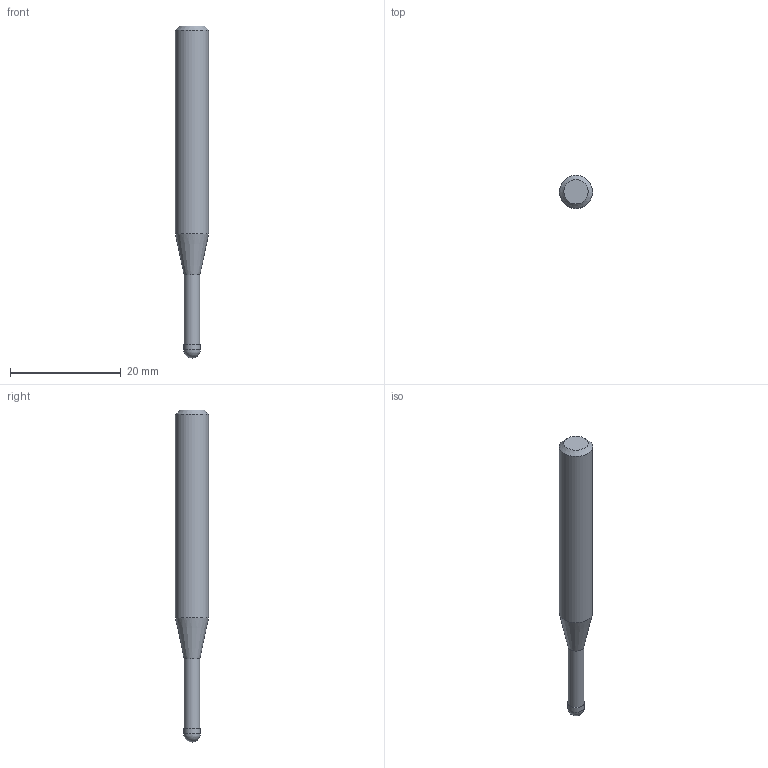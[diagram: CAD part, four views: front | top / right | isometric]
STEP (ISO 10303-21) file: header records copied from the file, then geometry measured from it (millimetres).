
FILE_DESCRIPTION((''),'2;1');
FILE_NAME('C:\Users\nsx150\AppData\Local\Temp\Mastercam 2021\3SYKECWX22\TEMP.step','2021-04-22T10:04:56',(''),(''),'STEP Write','Mastercam 2021 ... CNC Software, Inc.','');
FILE_SCHEMA(('AUTOMOTIVE_DESIGN'));
Length unit declared in the file: millimetre
Products named in the file (1): None
Bounding box: 6 x 6 x 60 mm (x, y, z)
Volume: 1270 mm3; surface area: 981.4 mm2
Topology: 2 solids, 2 shells, 9 faces, 14 edges, 8 vertices
Faces by surface type: plane 3, cylinder 3, cone 2, sphere 1
Full cylindrical faces by diameter (mm): 2.85 x1, 3 x1, 6 x1
Entity records: 211 total; most frequent: DIRECTION 36, CARTESIAN_POINT 25, AXIS2_PLACEMENT_3D 18, ORIENTED_EDGE 14, EDGE_LOOP 14, STYLED_ITEM 12, ADVANCED_FACE 9, FACE_BOUND 8
